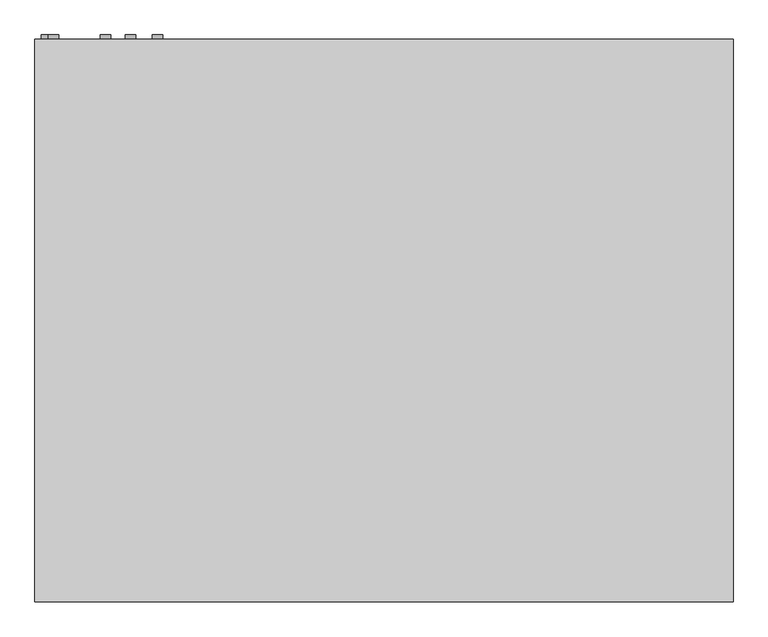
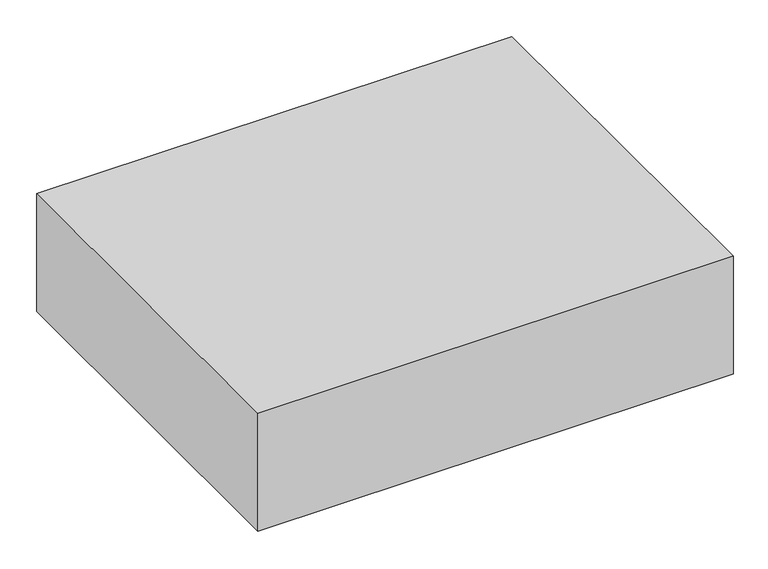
"""IFC4 building model written with IfcOpenShell, lengths in millimetres: proxy geometry, Exposed_Horizontal_Fan_Coil_Unit_-_42CGB_-_CARRIER_-_4-Pipe_BS-BR_LH_2022 : Size 03 - 277v/60Hz/1Ph - 4/1 Coil."""

from ifc_helpers import new_model, si_unit, point, frame, frame_2d, origin, place, context, project, spatial, polyline, circle_curve, trimmed, segment, composite_curve, outline, extrude, source, transform, mapped, element, save


def mechanical_equipment_e1928472(model_context):
    return source(origin(), model_context, "Body", "SweptSolid", [
        extrude(outline(polyline([(425.45, -439.7375), (425.45, -585.7875), (-120.65, -585.7875), (-120.65, -439.7375), (425.45, -439.7375)])), frame((0.0, 0.0, -285.75), z_axis=(0.0, 0.0, 1.0), x_axis=(1.0, 0.0, 0.0)), (0.0, 0.0, 1.0), 6.35),
        extrude(outline(composite_curve([segment(trimmed(circle_curve(frame_2d((-261.434158, -362.1546393)), 9.525), [point((-261.434158, -352.6296393))], [point((-261.434158, -371.6796393))], False, "CARTESIAN"), True, "CONTINUOUS"), segment(trimmed(circle_curve(frame_2d((-261.434158, -362.1546393)), 9.525), [point((-261.434158, -371.6796393))], [point((-261.434158, -352.6296393))], False, "CARTESIAN"), True, "CONTINUOUS")], self_intersect=False)), frame((0.0, 192.0875, 0.0), z_axis=(0.0, 1.0, 0.0), x_axis=(0.0, 0.0, 1.0)), (0.0, 0.0, 1.0), 6.35),
        extrude(outline(composite_curve([segment(trimmed(circle_curve(frame_2d((-85.725, -352.425)), 7.9375), [point((-85.725, -344.4875))], [point((-85.725, -360.3625))], False, "CARTESIAN"), True, "CONTINUOUS"), segment(trimmed(circle_curve(frame_2d((-85.725, -352.425)), 7.9375), [point((-85.725, -360.3625))], [point((-85.725, -344.4875))], False, "CARTESIAN"), True, "CONTINUOUS")], self_intersect=False)), frame((0.0, 192.0875, 0.0), z_axis=(0.0, 1.0, 0.0), x_axis=(0.0, 0.0, 1.0)), (0.0, 0.0, 1.0), 6.35),
        extrude(outline(composite_curve([segment(trimmed(circle_curve(frame_2d((-44.45, -273.05)), 7.9375), [point((-44.45, -265.1125))], [point((-44.45, -280.9875))], False, "CARTESIAN"), True, "CONTINUOUS"), segment(trimmed(circle_curve(frame_2d((-44.45, -273.05)), 7.9375), [point((-44.45, -280.9875))], [point((-44.45, -265.1125))], False, "CARTESIAN"), True, "CONTINUOUS")], self_intersect=False)), frame((0.0, 192.0875, 0.0), z_axis=(0.0, 1.0, 0.0), x_axis=(0.0, 0.0, 1.0)), (0.0, 0.0, 1.0), 6.35),
        extrude(outline(composite_curve([segment(trimmed(circle_curve(frame_2d((-95.25, -234.95)), 7.9375), [point((-95.25, -227.0125))], [point((-95.25, -242.8875))], False, "CARTESIAN"), True, "CONTINUOUS"), segment(trimmed(circle_curve(frame_2d((-95.25, -234.95)), 7.9375), [point((-95.25, -242.8875))], [point((-95.25, -227.0125))], False, "CARTESIAN"), True, "CONTINUOUS")], self_intersect=False)), frame((0.0, 192.0875, 0.0), z_axis=(0.0, 1.0, 0.0), x_axis=(0.0, 0.0, 1.0)), (0.0, 0.0, 1.0), 6.35),
        extrude(outline(composite_curve([segment(trimmed(circle_curve(frame_2d((-60.325, -193.675)), 7.9375), [point((-60.325, -185.7375))], [point((-60.325, -201.6125))], False, "CARTESIAN"), True, "CONTINUOUS"), segment(trimmed(circle_curve(frame_2d((-60.325, -193.675)), 7.9375), [point((-60.325, -201.6125))], [point((-60.325, -185.7375))], False, "CARTESIAN"), True, "CONTINUOUS")], self_intersect=False)), frame((0.0, 192.0875, 0.0), z_axis=(0.0, 1.0, 0.0), x_axis=(0.0, 0.0, 1.0)), (0.0, 0.0, 1.0), 6.35),
        extrude(outline(polyline([(-381.0, 192.0875), (685.8, 192.0875), (685.8, -668.3375), (-381.0, -668.3375), (-381.0, 192.0875)])), frame((0.0, 0.0, -279.4), z_axis=(0.0, 0.0, 1.0), x_axis=(1.0, 0.0, 0.0)), (0.0, 0.0, 1.0), 279.4),
        extrude(outline(polyline([(508.0, 115.8875), (508.0, -138.1125), (-203.2, -138.1125), (-203.2, 115.8875), (508.0, 115.8875)])), frame((0.0, 0.0, -285.75), z_axis=(0.0, 0.0, 1.0), x_axis=(1.0, 0.0, 0.0)), (0.0, 0.0, 1.0), 6.35),
    ])


if __name__ == "__main__":
    model = new_model("IFC4")
    model_context = context("Model", 3, world=origin())
    ifc_project = project(units=[si_unit("LENGTHUNIT", "METRE", prefix="MILLI")], contexts=[model_context])
    site = spatial("IfcSite", under=ifc_project)
    building = spatial("IfcBuilding", under=site)
    placement = place(None, origin())
    mechanical_equipment_shape = mechanical_equipment_e1928472(model_context)
    element("IfcBuildingElementProxy", 1, Name="Exposed_Horizontal_Fan_Coil_Unit_-_42CGB_-_CARRIER_-_4-Pipe_BS-BR_LH_2022 : Size 03 - 277v/60Hz/1Ph - 4/1 Coil", ObjectType="Exposed_Horizontal_Fan_Coil_Unit_-_42CGB_-_CARRIER_-_4-Pipe_BS-BR_LH_2022 : Size 03 - 277v/60Hz/1Ph - 4/1 Coil", at=placement, inside=building, context=model_context, shape_type="MappedRepresentation", body=[
        mapped(mechanical_equipment_shape, transform((0.0, 0.0, 0.0), x_axis=(1.0, 0.0, 0.0), y_axis=(0.0, 1.0, 0.0), z_axis=(0.0, 0.0, 1.0))),
    ])
    save(model, "model.ifc")
